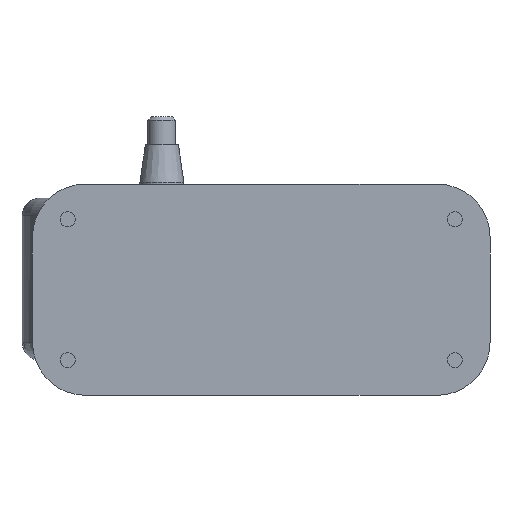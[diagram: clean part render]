
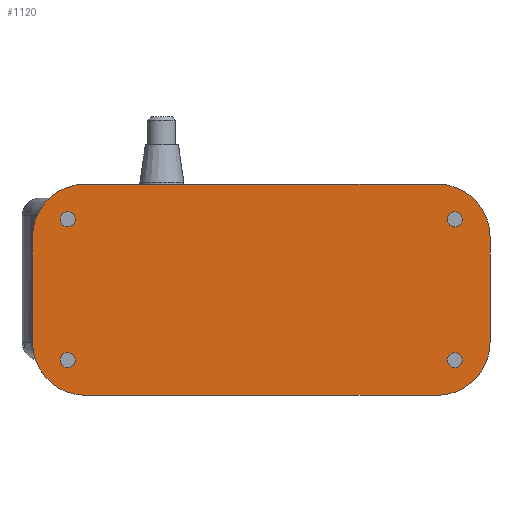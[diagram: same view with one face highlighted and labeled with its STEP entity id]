
A CAD part, front view. The second image highlights one B-rep face of the part: STEP entity #1120.
In plain terms, the highlighted planar face has unit normal (0, -1, 0).
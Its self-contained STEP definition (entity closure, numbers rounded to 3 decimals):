
#6 = DIRECTION ( 'NONE',  ( 0., -1., 0. ) ) ;
#7 = CARTESIAN_POINT ( 'NONE',  ( -101.291, 0., -30. ) ) ;
#9 = DIRECTION ( 'NONE',  ( 0., -1., 0. ) ) ;
#11 = DIRECTION ( 'NONE',  ( -1., 0., 0. ) ) ;
#15 = AXIS2_PLACEMENT_3D ( 'NONE', #43, #35, #11 ) ;
#17 = CARTESIAN_POINT ( 'NONE',  ( -111.291, 0., 40. ) ) ;
#35 = DIRECTION ( 'NONE',  ( 0., -1., 0. ) ) ;
#43 = CARTESIAN_POINT ( 'NONE',  ( 98.709, 0., 30. ) ) ;
#47 = CARTESIAN_POINT ( 'NONE',  ( 108.709, 0., -40. ) ) ;
#83 = CIRCLE ( 'NONE', #503, 4.25 ) ;
#88 = DIRECTION ( 'NONE',  ( -1., 0., 0. ) ) ;
#97 = DIRECTION ( 'NONE',  ( 0., 1., 0. ) ) ;
#113 = DIRECTION ( 'NONE',  ( 1., 0., 0. ) ) ;
#125 = DIRECTION ( 'NONE',  ( 1., 0., 0. ) ) ;
#130 = DIRECTION ( 'NONE',  ( 0., -1., 0. ) ) ;
#135 = CARTESIAN_POINT ( 'NONE',  ( 108.709, 0., -40. ) ) ;
#153 = CARTESIAN_POINT ( 'NONE',  ( -131.291, 0., -30. ) ) ;
#172 = PLANE ( 'NONE',  #1838 ) ;
#218 = CARTESIAN_POINT ( 'NONE',  ( 128.709, 0., 30. ) ) ;
#224 = EDGE_LOOP ( 'NONE', ( #1575, #1631 ) ) ;
#245 = EDGE_CURVE ( 'NONE', #1444, #1893, #1053, .T. ) ;
#270 = CARTESIAN_POINT ( 'NONE',  ( 112.959, 0., 40. ) ) ;
#306 = VERTEX_POINT ( 'NONE', #644 ) ;
#318 = DIRECTION ( 'NONE',  ( 1., 0., 0. ) ) ;
#323 = AXIS2_PLACEMENT_3D ( 'NONE', #1121, #6, #1304 ) ;
#335 = CIRCLE ( 'NONE', #1395, 30. ) ;
#387 = VECTOR ( 'NONE', #854, 1000. ) ;
#414 = EDGE_CURVE ( 'NONE', #554, #1650, #1183, .T. ) ;
#418 = ORIENTED_EDGE ( 'NONE', *, *, #572, .F. ) ;
#450 = DIRECTION ( 'NONE',  ( -1., 0., 0. ) ) ;
#459 = VERTEX_POINT ( 'NONE', #2121 ) ;
#466 = FACE_BOUND ( 'NONE', #224, .T. ) ;
#469 = CARTESIAN_POINT ( 'NONE',  ( -101.291, 0., 60. ) ) ;
#476 = EDGE_LOOP ( 'NONE', ( #711, #1669 ) ) ;
#490 = CIRCLE ( 'NONE', #1676, 30. ) ;
#493 = VECTOR ( 'NONE', #1653, 1000. ) ;
#496 = VERTEX_POINT ( 'NONE', #1151 ) ;
#503 = AXIS2_PLACEMENT_3D ( 'NONE', #2141, #2127, #1987 ) ;
#509 = DIRECTION ( 'NONE',  ( 0., -1., 0. ) ) ;
#517 = CIRCLE ( 'NONE', #1170, 4.25 ) ;
#532 = DIRECTION ( 'NONE',  ( 1., 0., 0. ) ) ;
#554 = VERTEX_POINT ( 'NONE', #218 ) ;
#564 = DIRECTION ( 'NONE',  ( 0., -1., 0. ) ) ;
#572 = EDGE_CURVE ( 'NONE', #1219, #1938, #1799, .T. ) ;
#576 = AXIS2_PLACEMENT_3D ( 'NONE', #586, #564, #532 ) ;
#578 = DIRECTION ( 'NONE',  ( 1., 0., 0. ) ) ;
#586 = CARTESIAN_POINT ( 'NONE',  ( -111.291, 0., 40. ) ) ;
#587 = DIRECTION ( 'NONE',  ( 0., -1., 0. ) ) ;
#606 = CIRCLE ( 'NONE', #576, 4.25 ) ;
#644 = CARTESIAN_POINT ( 'NONE',  ( -115.541, 0., -40. ) ) ;
#661 = VECTOR ( 'NONE', #318, 1000. ) ;
#694 = DIRECTION ( 'NONE',  ( 1., 0., 0. ) ) ;
#700 = DIRECTION ( 'NONE',  ( 0., -1., 0. ) ) ;
#711 = ORIENTED_EDGE ( 'NONE', *, *, #2297, .F. ) ;
#722 = ORIENTED_EDGE ( 'NONE', *, *, #414, .T. ) ;
#732 = ORIENTED_EDGE ( 'NONE', *, *, #1403, .F. ) ;
#780 = CARTESIAN_POINT ( 'NONE',  ( -131.291, 0., 60. ) ) ;
#782 = EDGE_CURVE ( 'NONE', #1762, #1650, #1929, .T. ) ;
#790 = DIRECTION ( 'NONE',  ( 0., 0., -1. ) ) ;
#854 = DIRECTION ( 'NONE',  ( 0., 0., -1. ) ) ;
#855 = AXIS2_PLACEMENT_3D ( 'NONE', #1511, #509, #450 ) ;
#877 = VERTEX_POINT ( 'NONE', #1659 ) ;
#897 = CIRCLE ( 'NONE', #1474, 4.25 ) ;
#909 = EDGE_LOOP ( 'NONE', ( #418, #2168 ) ) ;
#915 = CARTESIAN_POINT ( 'NONE',  ( 98.709, 0., 60. ) ) ;
#931 = CARTESIAN_POINT ( 'NONE',  ( -101.291, 0., -60. ) ) ;
#957 = CIRCLE ( 'NONE', #323, 4.25 ) ;
#978 = CARTESIAN_POINT ( 'NONE',  ( -131.291, 0., 30. ) ) ;
#1053 = LINE ( 'NONE', #780, #1462 ) ;
#1079 = EDGE_CURVE ( 'NONE', #306, #1733, #83, .T. ) ;
#1090 = CARTESIAN_POINT ( 'NONE',  ( 128.709, 0., -30. ) ) ;
#1112 = CARTESIAN_POINT ( 'NONE',  ( 104.459, 0., -40. ) ) ;
#1114 = VERTEX_POINT ( 'NONE', #270 ) ;
#1119 = EDGE_CURVE ( 'NONE', #877, #1737, #897, .T. ) ;
#1120 = ADVANCED_FACE ( 'NONE', ( #1383, #2225, #466, #1851, #1797 ), #172, .F. ) ;
#1121 = CARTESIAN_POINT ( 'NONE',  ( 108.709, 0., 40. ) ) ;
#1124 = CARTESIAN_POINT ( 'NONE',  ( -107.041, 0., 40. ) ) ;
#1142 = DIRECTION ( 'NONE',  ( -1., 0., 0. ) ) ;
#1147 = DIRECTION ( 'NONE',  ( 0., -1., 0. ) ) ;
#1151 = CARTESIAN_POINT ( 'NONE',  ( 98.709, 0., -60. ) ) ;
#1153 = ORIENTED_EDGE ( 'NONE', *, *, #1496, .T. ) ;
#1170 = AXIS2_PLACEMENT_3D ( 'NONE', #1675, #587, #1848 ) ;
#1183 = CIRCLE ( 'NONE', #15, 30. ) ;
#1185 = CARTESIAN_POINT ( 'NONE',  ( -101.291, 0., 30. ) ) ;
#1219 = VERTEX_POINT ( 'NONE', #1124 ) ;
#1221 = DIRECTION ( 'NONE',  ( 0., -1., 0. ) ) ;
#1255 = EDGE_CURVE ( 'NONE', #1662, #496, #2070, .T. ) ;
#1268 = CIRCLE ( 'NONE', #1461, 4.25 ) ;
#1279 = CARTESIAN_POINT ( 'NONE',  ( -131.291, 0., 60. ) ) ;
#1285 = EDGE_CURVE ( 'NONE', #1938, #1219, #606, .T. ) ;
#1304 = DIRECTION ( 'NONE',  ( 1., 0., 0. ) ) ;
#1337 = VERTEX_POINT ( 'NONE', #1090 ) ;
#1348 = EDGE_CURVE ( 'NONE', #1893, #1662, #490, .T. ) ;
#1383 = FACE_BOUND ( 'NONE', #476, .T. ) ;
#1395 = AXIS2_PLACEMENT_3D ( 'NONE', #1185, #1147, #1142 ) ;
#1403 = EDGE_CURVE ( 'NONE', #554, #1337, #1824, .T. ) ;
#1415 = ORIENTED_EDGE ( 'NONE', *, *, #1674, .T. ) ;
#1444 = VERTEX_POINT ( 'NONE', #978 ) ;
#1447 = CARTESIAN_POINT ( 'NONE',  ( -115.541, 0., 40. ) ) ;
#1461 = AXIS2_PLACEMENT_3D ( 'NONE', #135, #130, #125 ) ;
#1462 = VECTOR ( 'NONE', #790, 1000. ) ;
#1474 = AXIS2_PLACEMENT_3D ( 'NONE', #47, #700, #694 ) ;
#1491 = EDGE_LOOP ( 'NONE', ( #2280, #2098 ) ) ;
#1496 = EDGE_CURVE ( 'NONE', #1762, #1444, #335, .T. ) ;
#1511 = CARTESIAN_POINT ( 'NONE',  ( 98.709, 0., -30. ) ) ;
#1575 = ORIENTED_EDGE ( 'NONE', *, *, #2044, .F. ) ;
#1591 = CARTESIAN_POINT ( 'NONE',  ( -131.291, 0., -60. ) ) ;
#1618 = DIRECTION ( 'NONE',  ( -1., 0., 0. ) ) ;
#1631 = ORIENTED_EDGE ( 'NONE', *, *, #1991, .F. ) ;
#1633 = DIRECTION ( 'NONE',  ( 0., -1., 0. ) ) ;
#1650 = VERTEX_POINT ( 'NONE', #915 ) ;
#1653 = DIRECTION ( 'NONE',  ( 1., 0., 0. ) ) ;
#1659 = CARTESIAN_POINT ( 'NONE',  ( 112.959, 0., -40. ) ) ;
#1662 = VERTEX_POINT ( 'NONE', #931 ) ;
#1669 = ORIENTED_EDGE ( 'NONE', *, *, #1079, .F. ) ;
#1674 = EDGE_CURVE ( 'NONE', #496, #1337, #2177, .T. ) ;
#1675 = CARTESIAN_POINT ( 'NONE',  ( 108.709, 0., 40. ) ) ;
#1676 = AXIS2_PLACEMENT_3D ( 'NONE', #7, #1633, #1618 ) ;
#1688 = AXIS2_PLACEMENT_3D ( 'NONE', #2243, #1221, #113 ) ;
#1700 = EDGE_CURVE ( 'NONE', #1737, #877, #1268, .T. ) ;
#1721 = ORIENTED_EDGE ( 'NONE', *, *, #1255, .T. ) ;
#1733 = VERTEX_POINT ( 'NONE', #2090 ) ;
#1737 = VERTEX_POINT ( 'NONE', #1112 ) ;
#1762 = VERTEX_POINT ( 'NONE', #469 ) ;
#1766 = CARTESIAN_POINT ( 'NONE',  ( 128.709, 0., 60. ) ) ;
#1797 = FACE_OUTER_BOUND ( 'NONE', #2161, .T. ) ;
#1799 = CIRCLE ( 'NONE', #2274, 4.25 ) ;
#1824 = LINE ( 'NONE', #1766, #387 ) ;
#1838 = AXIS2_PLACEMENT_3D ( 'NONE', #1279, #97, #88 ) ;
#1848 = DIRECTION ( 'NONE',  ( 1., 0., 0. ) ) ;
#1851 = FACE_BOUND ( 'NONE', #909, .T. ) ;
#1893 = VERTEX_POINT ( 'NONE', #153 ) ;
#1929 = LINE ( 'NONE', #2216, #493 ) ;
#1938 = VERTEX_POINT ( 'NONE', #1447 ) ;
#1987 = DIRECTION ( 'NONE',  ( 1., 0., 0. ) ) ;
#1991 = EDGE_CURVE ( 'NONE', #459, #1114, #957, .T. ) ;
#2044 = EDGE_CURVE ( 'NONE', #1114, #459, #517, .T. ) ;
#2055 = ORIENTED_EDGE ( 'NONE', *, *, #245, .T. ) ;
#2070 = LINE ( 'NONE', #1591, #661 ) ;
#2090 = CARTESIAN_POINT ( 'NONE',  ( -107.041, 0., -40. ) ) ;
#2098 = ORIENTED_EDGE ( 'NONE', *, *, #1700, .F. ) ;
#2121 = CARTESIAN_POINT ( 'NONE',  ( 104.459, 0., 40. ) ) ;
#2127 = DIRECTION ( 'NONE',  ( 0., -1., 0. ) ) ;
#2141 = CARTESIAN_POINT ( 'NONE',  ( -111.291, 0., -40. ) ) ;
#2147 = CIRCLE ( 'NONE', #1688, 4.25 ) ;
#2161 = EDGE_LOOP ( 'NONE', ( #1721, #1415, #732, #722, #2278, #1153, #2055, #2233 ) ) ;
#2168 = ORIENTED_EDGE ( 'NONE', *, *, #1285, .F. ) ;
#2177 = CIRCLE ( 'NONE', #855, 30. ) ;
#2216 = CARTESIAN_POINT ( 'NONE',  ( -131.291, 0., 60. ) ) ;
#2225 = FACE_BOUND ( 'NONE', #1491, .T. ) ;
#2233 = ORIENTED_EDGE ( 'NONE', *, *, #1348, .T. ) ;
#2243 = CARTESIAN_POINT ( 'NONE',  ( -111.291, 0., -40. ) ) ;
#2274 = AXIS2_PLACEMENT_3D ( 'NONE', #17, #9, #578 ) ;
#2278 = ORIENTED_EDGE ( 'NONE', *, *, #782, .F. ) ;
#2280 = ORIENTED_EDGE ( 'NONE', *, *, #1119, .F. ) ;
#2297 = EDGE_CURVE ( 'NONE', #1733, #306, #2147, .T. ) ;
